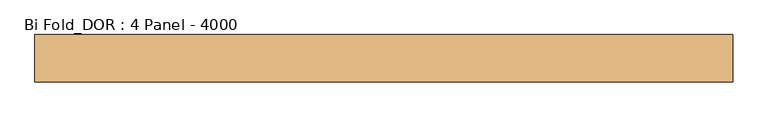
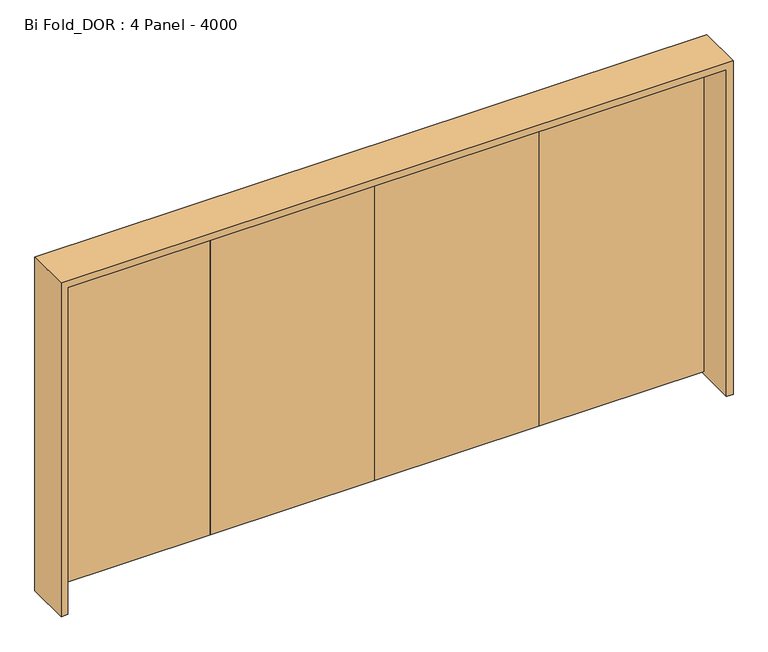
"""IFC4 building model written with IfcOpenShell, lengths in millimetres: door geometry, Bi Fold_DOR : 4 Panel - 4000."""

import ifcopenshell
import ifcopenshell.guid

model = None  # the IFC model being written
_history = None  # IfcOwnerHistory: only IFC2X3 demands one
_inside = {}  # id of a spatial element -> (the spatial element, [elements in it])
_under = {}  # id of a project, library or spatial element -> (it, [spatial elements below it])
_declared = {}  # id of a project -> (the project, [libraries it declares])
_typed = {}  # id of a type object -> (the type object, [elements of that type])
_made_of = {}  # id of a material, layer set ... -> (it, [elements and type objects made of it])


def new_model(schema):
    """Start an empty IFC model of exactly this schema.

    Asked for "IFC4X3", IfcOpenShell would pick the latest addendum, in which some entities
    have other attributes; the version numbers below select the first issue.
    IFC2X3 requires an IfcOwnerHistory on every rooted entity: one is made here for all.
    """
    global model, _history
    if schema == "IFC4X3":
        model = ifcopenshell.file(schema_version=(4, 3, 0, 0))
    else:
        model = ifcopenshell.file(schema=schema)
    _inside.clear()
    _under.clear()
    _declared.clear()
    _typed.clear()
    _made_of.clear()
    _history = None
    if model.schema == "IFC2X3":
        org = make("IfcOrganization", Name="unknown")
        user = make(
            "IfcPersonAndOrganization",
            ThePerson=make("IfcPerson", FamilyName="unknown"),
            TheOrganization=org,
        )
        app = make(
            "IfcApplication",
            ApplicationDeveloper=org,
            Version="unknown",
            ApplicationFullName="unknown",
            ApplicationIdentifier="unknown",
        )
        _history = make(
            "IfcOwnerHistory",
            OwningUser=user,
            OwningApplication=app,
            ChangeAction="ADDED",
            CreationDate=0,
        )
    return model


def make(cls, **values):
    """One entity of the class cls with the attributes given. An attribute that is None is left unset."""
    return model.create_entity(
        cls, **{name: value for name, value in values.items() if value is not None}
    )


def rooted(cls, **values):
    """An entity with a GlobalId (a new one), such as an element, a storey or a relation."""
    return make(cls, GlobalId=ifcopenshell.guid.new(), OwnerHistory=_history, **values)


def si_unit(unit_type, name, prefix=None):
    """IfcSIUnit, for example si_unit("LENGTHUNIT", "METRE", prefix="MILLI")."""
    return make("IfcSIUnit", UnitType=unit_type, Prefix=prefix, Name=name)


def assignment(units):
    """IfcUnitAssignment: the units of a project."""
    return None if units is None else make("IfcUnitAssignment", Units=units)


def point(xyz):
    """IfcCartesianPoint."""
    return None if xyz is None else make("IfcCartesianPoint", Coordinates=xyz)


def direction(xyz):
    """IfcDirection."""
    return None if xyz is None else make("IfcDirection", DirectionRatios=xyz)


def frame(location, z_axis=None, x_axis=None):
    """IfcAxis2Placement3D, a coordinate frame: its origin and axes. An axis left out is left unset."""
    return make(
        "IfcAxis2Placement3D",
        Location=point(location),
        Axis=direction(z_axis),
        RefDirection=direction(x_axis),
    )


def origin():
    """The frame at (0, 0, 0) with its axes left unset."""
    return frame((0.0, 0.0, 0.0))


def place(relative_to, where):
    """IfcLocalPlacement: puts the frame where relative to a parent placement (None: the world)."""
    return make(
        "IfcLocalPlacement", PlacementRelTo=relative_to, RelativePlacement=where
    )


def context(
    kind, dimensions, precision=None, world=None, true_north=None, identifier=None
):
    """IfcGeometricRepresentationContext, for example the 3D "Model" context."""
    return make(
        "IfcGeometricRepresentationContext",
        ContextIdentifier=identifier,
        ContextType=kind,
        CoordinateSpaceDimension=dimensions,
        Precision=precision,
        WorldCoordinateSystem=world,
        TrueNorth=true_north,
    )


def project(units=None, contexts=None):
    """IfcProject with its units and contexts."""
    return rooted(
        "IfcProject",
        Name="project",
        RepresentationContexts=contexts,
        UnitsInContext=assignment(units),
    )


def spatial(cls, under=None, at=None, **own):
    """A site, building, storey or space (cls), placed at a placement, below another one or the project."""
    s = rooted(cls, ObjectPlacement=at, **own)
    if under is not None:
        _under.setdefault(under.id(), (under, []))[1].append(s)
    return s


def polyline(points):
    """IfcPolyline through the points."""
    return make("IfcPolyline", Points=[point(p) for p in points])


def outline(outer, holes=None, kind="AREA"):
    """IfcArbitraryClosedProfileDef: a profile drawn as a closed curve; with holes, ...WithVoids."""
    if holes is None:
        return make("IfcArbitraryClosedProfileDef", ProfileType=kind, OuterCurve=outer)
    return make(
        "IfcArbitraryProfileDefWithVoids",
        ProfileType=kind,
        OuterCurve=outer,
        InnerCurves=holes,
    )


def extrude(swept, where, along, depth):
    """IfcExtrudedAreaSolid: the profile swept, set in the frame where, extruded along a direction by depth."""
    return make(
        "IfcExtrudedAreaSolid",
        SweptArea=swept,
        Position=where,
        ExtrudedDirection=direction(along),
        Depth=depth,
    )


def shape(context_of_items, identifier, shape_type, items):
    """IfcShapeRepresentation: the items that make up one representation, for example the "Body"."""
    return make(
        "IfcShapeRepresentation",
        ContextOfItems=context_of_items,
        RepresentationIdentifier=identifier,
        RepresentationType=shape_type,
        Items=items,
    )


def source(mapping_origin, context_of_items, identifier, shape_type, items):
    """IfcRepresentationMap: a shape defined once, which mapped items show again and again."""
    return make(
        "IfcRepresentationMap",
        MappingOrigin=mapping_origin,
        MappedRepresentation=shape(context_of_items, identifier, shape_type, items),
    )


def transform(
    local_origin,
    x_axis=None,
    y_axis=None,
    z_axis=None,
    scale=None,
    scale2=None,
    scale3=None,
    uniform=True,
):
    """IfcCartesianTransformationOperator3D, or its non-uniform kind. x_axis, y_axis, z_axis: its Axis1, 2, 3."""
    if uniform:
        return make(
            "IfcCartesianTransformationOperator3D",
            Axis1=direction(x_axis),
            Axis2=direction(y_axis),
            LocalOrigin=point(local_origin),
            Scale=scale,
            Axis3=direction(z_axis),
        )
    return make(
        "IfcCartesianTransformationOperator3DnonUniform",
        Axis1=direction(x_axis),
        Axis2=direction(y_axis),
        LocalOrigin=point(local_origin),
        Scale=scale,
        Axis3=direction(z_axis),
        Scale2=scale2,
        Scale3=scale3,
    )


def mapped(mapping_source, mapping_target):
    """IfcMappedItem: shows the shape of a source again, moved by a transform."""
    return make(
        "IfcMappedItem", MappingSource=mapping_source, MappingTarget=mapping_target
    )


def made_of(thing, what):
    """Note that an element or type object is made of a material, layer set ...; save() writes the relation."""
    if what is not None:
        _made_of.setdefault(what.id(), (what, []))[1].append(thing)
    return thing


def element(
    cls,
    number,
    at=None,
    inside=None,
    cuts=None,
    type_object=None,
    material=None,
    context=None,
    identifier="Body",
    shape_type=None,
    held_by="IfcProductDefinitionShape",
    body=None,
    shapes=None,
    **own,
):
    """One element of the class cls, such as IfcWall. Its Tag is "e" and its number.

    at: its placement. inside: the storey or other place that contains it. cuts: it is an
    opening in that element (IfcRelVoidsElement). A single representation is given by context,
    identifier, shape_type and body (its items); several are given by shapes. held_by: the class
    of the entity that holds the representations. save() writes the other relations.
    """
    e = rooted(cls, Tag="e%d" % number, ObjectPlacement=at, **own)
    if body is not None:
        shapes = [shape(context, identifier, shape_type, body)]
    if shapes is not None:
        e.Representation = make(held_by, Representations=shapes)
    if inside is not None:
        _inside.setdefault(inside.id(), (inside, []))[1].append(e)
    if cuts is not None:
        rooted(
            "IfcRelVoidsElement", RelatingBuildingElement=cuts, RelatedOpeningElement=e
        )
    if type_object is not None:
        _typed.setdefault(type_object.id(), (type_object, []))[1].append(e)
    return made_of(e, material)


def aggregate(whole, parts):
    """IfcRelAggregates: a whole, such as a stair, and the parts it consists of."""
    return rooted("IfcRelAggregates", RelatingObject=whole, RelatedObjects=parts)


def save(model, path):
    """Write the relations noted so far, then the file.

    IfcRelAggregates (storeys below a building ...), IfcRelContainedInSpatialStructure (elements
    in a storey), IfcRelDefinesByType, IfcRelAssociatesMaterial and IfcRelDeclares: one each for
    every whole, place, type object, material and project.
    """
    for whole, parts in _under.values():
        aggregate(whole, parts)
    for where, things in _inside.values():
        rooted(
            "IfcRelContainedInSpatialStructure",
            RelatedElements=things,
            RelatingStructure=where,
        )
    for kind, things in _typed.values():
        rooted("IfcRelDefinesByType", RelatedObjects=things, RelatingType=kind)
    for what, things in _made_of.values():
        rooted("IfcRelAssociatesMaterial", RelatedObjects=things, RelatingMaterial=what)
    for by, libraries in _declared.values():
        rooted("IfcRelDeclares", RelatingContext=by, RelatedDefinitions=libraries)
    model.write(path)


def bi_fold_dor_4_panel_4000_20490200(model_context):
    return source(origin(), model_context, "Body", "SweptSolid", [
        extrude(outline(polyline([(1960.0, 95.0), (980.0, 95.0), (980.0, 135.0), (1960.0, 135.0), (1960.0, 95.0)])), frame((0.0, 0.0, 20.0), z_axis=(0.0, 0.0, 1.0), x_axis=(1.0, 0.0, 0.0)), (0.0, 0.0, 1.0), 2040.0),
        extrude(outline(polyline([(980.0, 95.0), (0.0, 95.0), (0.0, 135.0), (980.0, 135.0), (980.0, 95.0)])), frame((0.0, 0.0, 20.0), z_axis=(0.0, 0.0, 1.0), x_axis=(1.0, 0.0, 0.0)), (0.0, 0.0, 1.0), 2040.0),
        extrude(outline(polyline([(0.0, 95.0), (-980.0, 95.0), (-980.0, 135.0), (0.0, 135.0), (0.0, 95.0)])), frame((0.0, 0.0, 20.0), z_axis=(0.0, 0.0, 1.0), x_axis=(1.0, 0.0, 0.0)), (0.0, 0.0, 1.0), 2040.0),
        extrude(outline(polyline([(-980.0, 95.0), (-1960.0, 95.0), (-1960.0, 135.0), (-980.0, 135.0), (-980.0, 95.0)])), frame((0.0, 0.0, 20.0), z_axis=(0.0, 0.0, 1.0), x_axis=(1.0, 0.0, 0.0)), (0.0, 0.0, 1.0), 2040.0),
        extrude(outline(polyline([(0.0, 1960.0), (0.0, 2000.0), (2100.0, 2000.0), (2100.0, -2000.0), (0.0, -2000.0), (0.0, -1960.0), (2060.0, -1960.0), (2060.0, 1960.0), (0.0, 1960.0)])), frame((0.0, -135.0, 0.0), z_axis=(0.0, 1.0, 0.0), x_axis=(0.0, 0.0, 1.0)), (0.0, 0.0, 1.0), 270.0),
    ])


if __name__ == "__main__":
    model = new_model("IFC4")
    model_context = context("Model", 3, world=origin())
    ifc_project = project(units=[si_unit("LENGTHUNIT", "METRE", prefix="MILLI")], contexts=[model_context])
    site = spatial("IfcSite", under=ifc_project)
    building = spatial("IfcBuilding", under=site)
    placement = place(None, origin())
    bi_fold_dor_4_panel_4000_shape = bi_fold_dor_4_panel_4000_20490200(model_context)
    element("IfcDoor", 1, ObjectType="Bi Fold_DOR : 4 Panel - 4000", at=placement, inside=building, context=model_context, shape_type="MappedRepresentation", body=[
        mapped(bi_fold_dor_4_panel_4000_shape, transform((0.0, 0.0, 0.0), x_axis=(1.0, 0.0, 0.0), y_axis=(0.0, 1.0, 0.0), z_axis=(0.0, 0.0, 1.0))),
    ])
    save(model, "model.ifc")
